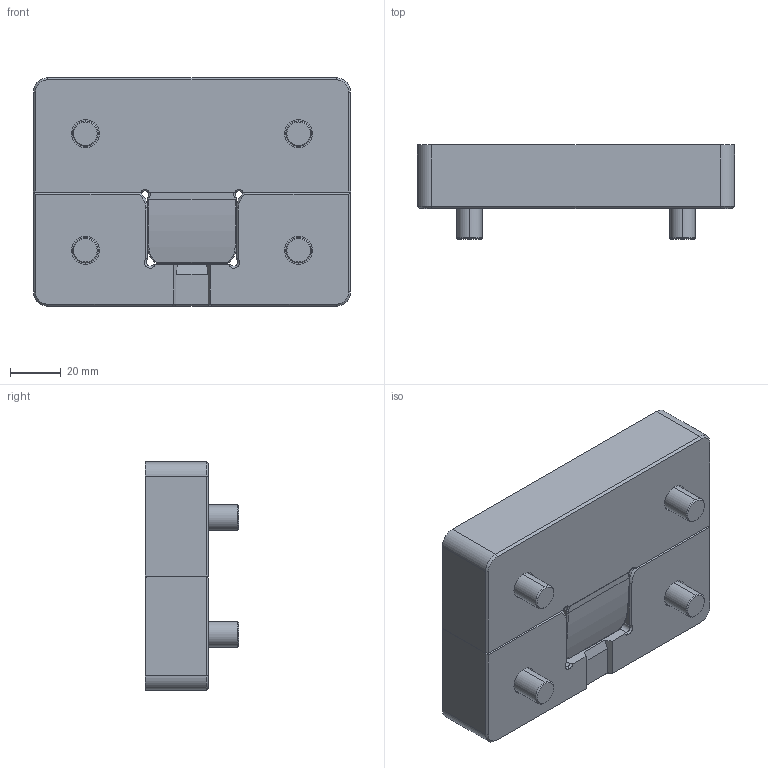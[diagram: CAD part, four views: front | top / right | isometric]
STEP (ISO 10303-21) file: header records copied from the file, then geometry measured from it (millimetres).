
FILE_DESCRIPTION (( 'STEP AP214' ), '1' );
FILE_NAME ('SLM25X125Z.STEP', '2012-06-04T13:57:02', ( 'Progressive Components' ), ( 'Progressive Components' ), 'SwSTEP 2.0', 'SolidWorks 2010', '' );
FILE_SCHEMA (( 'AUTOMOTIVE_DESIGN' ));
Length unit declared in the file: millimetre
Products named in the file (4): SLM25X125Z MALE; SLM25X125Z FEMALE; M10_X_25_SHCS; SLM25X125Z
Assembly tree (6 placements, depth 2):
  SLM25X125Z
    SLM25X125Z MALE
    SLM25X125Z FEMALE
    M10_X_25_SHCS  x4
Bounding box: 125 x 37 x 90 mm (x, y, z)
Volume: 274962.5 mm3; surface area: 52448.9 mm2
Topology: 6 solids, 6 shells, 367 faces, 793 edges, 506 vertices
Faces by surface type: cylinder 167, plane 146, cone 38, torus 14, bspline 2
Entity records: 9031 total; most frequent: CARTESIAN_POINT 1869, DIRECTION 1597, ORIENTED_EDGE 1334, EDGE_CURVE 667, AXIS2_PLACEMENT_3D 654, VERTEX_POINT 428, EDGE_LOOP 377, CIRCLE 340
